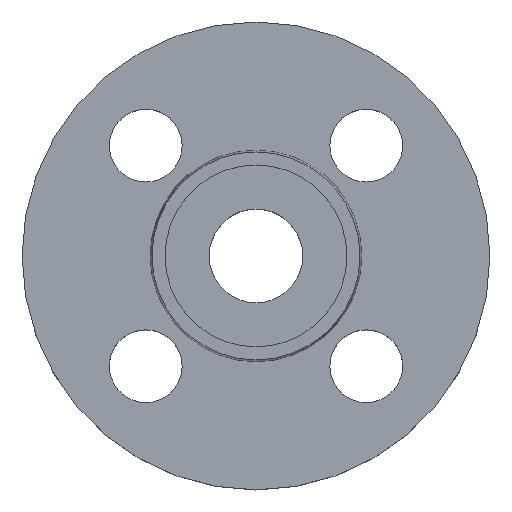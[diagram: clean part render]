
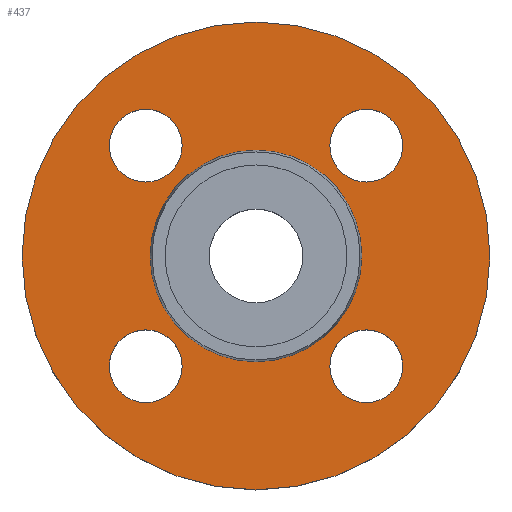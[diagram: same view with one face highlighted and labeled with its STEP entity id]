
A CAD part, top view. The second image highlights one B-rep face of the part: STEP entity #437.
In plain terms, the highlighted planar face has unit normal (0, 0, 1).
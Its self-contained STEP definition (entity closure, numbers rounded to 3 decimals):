
#24 = DIRECTION ( 'NONE',  ( 0., 0., -1. ) ) ;
#25 = DIRECTION ( 'NONE',  ( -1., 0., 0. ) ) ;
#31 = CARTESIAN_POINT ( 'NONE',  ( 0., 0., -2. ) ) ;
#40 = AXIS2_PLACEMENT_3D ( 'NONE', #396, #397, #399 ) ;
#42 = CIRCLE ( 'NONE', #40, 7. ) ;
#49 = CARTESIAN_POINT ( 'NONE',  ( 28.213, 21.213, -2. ) ) ;
#52 = CARTESIAN_POINT ( 'NONE',  ( 28.213, -21.213, -2. ) ) ;
#53 = CARTESIAN_POINT ( 'NONE',  ( 14.213, -21.213, -2. ) ) ;
#65 = CARTESIAN_POINT ( 'NONE',  ( -28.213, 21.213, -2. ) ) ;
#69 = CARTESIAN_POINT ( 'NONE',  ( -14.213, -21.213, -2. ) ) ;
#70 = DIRECTION ( 'NONE',  ( -1., 0., 0. ) ) ;
#71 = DIRECTION ( 'NONE',  ( 0., 0., -1. ) ) ;
#72 = CARTESIAN_POINT ( 'NONE',  ( 0., 0., -2. ) ) ;
#88 = CIRCLE ( 'NONE', #292, 45. ) ;
#98 = AXIS2_PLACEMENT_3D ( 'NONE', #280, #281, #282 ) ;
#102 = EDGE_CURVE ( 'NONE', #690, #498, #262, .T. ) ;
#103 = DIRECTION ( 'NONE',  ( -1., 0., 0. ) ) ;
#105 = DIRECTION ( 'NONE',  ( 0., 0., -1. ) ) ;
#107 = CARTESIAN_POINT ( 'NONE',  ( 0., 0., -2. ) ) ;
#108 = DIRECTION ( 'NONE',  ( 1., 0., 0. ) ) ;
#110 = DIRECTION ( 'NONE',  ( 0., 0., -1. ) ) ;
#111 = AXIS2_PLACEMENT_3D ( 'NONE', #466, #467, #474 ) ;
#113 = CARTESIAN_POINT ( 'NONE',  ( 21.213, 21.213, -2. ) ) ;
#116 = DIRECTION ( 'NONE',  ( 1., 0., 0. ) ) ;
#117 = DIRECTION ( 'NONE',  ( 0., 0., -1. ) ) ;
#118 = CARTESIAN_POINT ( 'NONE',  ( 21.213, -21.213, -2. ) ) ;
#124 = CIRCLE ( 'NONE', #703, 7. ) ;
#146 = CARTESIAN_POINT ( 'NONE',  ( -28.213, -21.213, -2. ) ) ;
#151 = CIRCLE ( 'NONE', #255, 45. ) ;
#156 = CARTESIAN_POINT ( 'NONE',  ( -14.213, 21.213, -2. ) ) ;
#157 = CARTESIAN_POINT ( 'NONE',  ( -45., 0., -2. ) ) ;
#186 = FACE_BOUND ( 'NONE', #519, .T. ) ;
#191 = FACE_BOUND ( 'NONE', #497, .T. ) ;
#205 = AXIS2_PLACEMENT_3D ( 'NONE', #113, #110, #108 ) ;
#220 = DIRECTION ( 'NONE',  ( 0., 0., 1. ) ) ;
#230 = EDGE_CURVE ( 'NONE', #673, #526, #270, .T. ) ;
#234 = AXIS2_PLACEMENT_3D ( 'NONE', #297, #298, #299 ) ;
#239 = CIRCLE ( 'NONE', #234, 7. ) ;
#240 = FACE_BOUND ( 'NONE', #515, .T. ) ;
#245 = CIRCLE ( 'NONE', #98, 7. ) ;
#247 = CARTESIAN_POINT ( 'NONE',  ( 20.353, 0., -2. ) ) ;
#248 = PLANE ( 'NONE',  #439 ) ;
#249 = DIRECTION ( 'NONE',  ( 1., 0., 0. ) ) ;
#250 = FACE_OUTER_BOUND ( 'NONE', #509, .T. ) ;
#251 = CARTESIAN_POINT ( 'NONE',  ( -20.353, 0., -2. ) ) ;
#255 = AXIS2_PLACEMENT_3D ( 'NONE', #414, #415, #423 ) ;
#256 = CARTESIAN_POINT ( 'NONE',  ( 45., 0., -2. ) ) ;
#262 = CIRCLE ( 'NONE', #478, 7. ) ;
#263 = EDGE_CURVE ( 'NONE', #684, #681, #245, .T. ) ;
#267 = CIRCLE ( 'NONE', #111, 7. ) ;
#270 = CIRCLE ( 'NONE', #364, 7. ) ;
#280 = CARTESIAN_POINT ( 'NONE',  ( 21.213, -21.213, -2. ) ) ;
#281 = DIRECTION ( 'NONE',  ( 0., 0., -1. ) ) ;
#282 = DIRECTION ( 'NONE',  ( 1., 0., 0. ) ) ;
#292 = AXIS2_PLACEMENT_3D ( 'NONE', #72, #71, #70 ) ;
#297 = CARTESIAN_POINT ( 'NONE',  ( -21.213, -21.213, -2. ) ) ;
#298 = DIRECTION ( 'NONE',  ( 0., 0., -1. ) ) ;
#299 = DIRECTION ( 'NONE',  ( 1., 0., 0. ) ) ;
#302 = EDGE_CURVE ( 'NONE', #666, #549, #239, .T. ) ;
#307 = CIRCLE ( 'NONE', #420, 20.353 ) ;
#311 = CIRCLE ( 'NONE', #205, 7. ) ;
#313 = CIRCLE ( 'NONE', #342, 20.353 ) ;
#342 = AXIS2_PLACEMENT_3D ( 'NONE', #31, #24, #25 ) ;
#355 = EDGE_CURVE ( 'NONE', #526, #673, #42, .T. ) ;
#364 = AXIS2_PLACEMENT_3D ( 'NONE', #795, #796, #797 ) ;
#378 = EDGE_CURVE ( 'NONE', #500, #508, #151, .T. ) ;
#396 = CARTESIAN_POINT ( 'NONE',  ( -21.213, 21.213, -2. ) ) ;
#397 = DIRECTION ( 'NONE',  ( 0., 0., -1. ) ) ;
#399 = DIRECTION ( 'NONE',  ( 1., 0., 0. ) ) ;
#414 = CARTESIAN_POINT ( 'NONE',  ( 0., 0., -2. ) ) ;
#415 = DIRECTION ( 'NONE',  ( 0., 0., -1. ) ) ;
#420 = AXIS2_PLACEMENT_3D ( 'NONE', #107, #105, #103 ) ;
#423 = DIRECTION ( 'NONE',  ( -1., 0., 0. ) ) ;
#437 = ADVANCED_FACE ( 'NONE', ( #186, #453, #191, #456, #240, #250 ), #248, .T. ) ;
#439 = AXIS2_PLACEMENT_3D ( 'NONE', #247, #220, #249 ) ;
#453 = FACE_BOUND ( 'NONE', #601, .T. ) ;
#456 = FACE_BOUND ( 'NONE', #564, .T. ) ;
#457 = CARTESIAN_POINT ( 'NONE',  ( 14.213, 21.213, -2. ) ) ;
#466 = CARTESIAN_POINT ( 'NONE',  ( -21.213, -21.213, -2. ) ) ;
#467 = DIRECTION ( 'NONE',  ( 0., 0., -1. ) ) ;
#474 = DIRECTION ( 'NONE',  ( 1., 0., 0. ) ) ;
#478 = AXIS2_PLACEMENT_3D ( 'NONE', #730, #731, #732 ) ;
#484 = CARTESIAN_POINT ( 'NONE',  ( 20.353, 0., -2. ) ) ;
#485 = EDGE_CURVE ( 'NONE', #549, #666, #267, .T. ) ;
#488 = VERTEX_POINT ( 'NONE', #484 ) ;
#497 = EDGE_LOOP ( 'NONE', ( #586, #587 ) ) ;
#498 = VERTEX_POINT ( 'NONE', #457 ) ;
#499 = VERTEX_POINT ( 'NONE', #251 ) ;
#500 = VERTEX_POINT ( 'NONE', #256 ) ;
#508 = VERTEX_POINT ( 'NONE', #157 ) ;
#509 = EDGE_LOOP ( 'NONE', ( #593, #595 ) ) ;
#515 = EDGE_LOOP ( 'NONE', ( #591, #592 ) ) ;
#519 = EDGE_LOOP ( 'NONE', ( #581, #583 ) ) ;
#526 = VERTEX_POINT ( 'NONE', #156 ) ;
#549 = VERTEX_POINT ( 'NONE', #146 ) ;
#564 = EDGE_LOOP ( 'NONE', ( #588, #589 ) ) ;
#581 = ORIENTED_EDGE ( 'NONE', *, *, #263, .T. ) ;
#583 = ORIENTED_EDGE ( 'NONE', *, *, #597, .T. ) ;
#584 = ORIENTED_EDGE ( 'NONE', *, *, #302, .T. ) ;
#585 = ORIENTED_EDGE ( 'NONE', *, *, #485, .T. ) ;
#586 = ORIENTED_EDGE ( 'NONE', *, *, #355, .T. ) ;
#587 = ORIENTED_EDGE ( 'NONE', *, *, #230, .T. ) ;
#588 = ORIENTED_EDGE ( 'NONE', *, *, #102, .T. ) ;
#589 = ORIENTED_EDGE ( 'NONE', *, *, #608, .T. ) ;
#591 = ORIENTED_EDGE ( 'NONE', *, *, #760, .T. ) ;
#592 = ORIENTED_EDGE ( 'NONE', *, *, #611, .T. ) ;
#593 = ORIENTED_EDGE ( 'NONE', *, *, #378, .F. ) ;
#595 = ORIENTED_EDGE ( 'NONE', *, *, #646, .F. ) ;
#597 = EDGE_CURVE ( 'NONE', #681, #684, #124, .T. ) ;
#601 = EDGE_LOOP ( 'NONE', ( #584, #585 ) ) ;
#608 = EDGE_CURVE ( 'NONE', #498, #690, #311, .T. ) ;
#611 = EDGE_CURVE ( 'NONE', #488, #499, #307, .T. ) ;
#646 = EDGE_CURVE ( 'NONE', #508, #500, #88, .T. ) ;
#666 = VERTEX_POINT ( 'NONE', #69 ) ;
#673 = VERTEX_POINT ( 'NONE', #65 ) ;
#681 = VERTEX_POINT ( 'NONE', #53 ) ;
#684 = VERTEX_POINT ( 'NONE', #52 ) ;
#690 = VERTEX_POINT ( 'NONE', #49 ) ;
#703 = AXIS2_PLACEMENT_3D ( 'NONE', #118, #117, #116 ) ;
#730 = CARTESIAN_POINT ( 'NONE',  ( 21.213, 21.213, -2. ) ) ;
#731 = DIRECTION ( 'NONE',  ( 0., 0., -1. ) ) ;
#732 = DIRECTION ( 'NONE',  ( 1., 0., 0. ) ) ;
#760 = EDGE_CURVE ( 'NONE', #499, #488, #313, .T. ) ;
#795 = CARTESIAN_POINT ( 'NONE',  ( -21.213, 21.213, -2. ) ) ;
#796 = DIRECTION ( 'NONE',  ( 0., 0., -1. ) ) ;
#797 = DIRECTION ( 'NONE',  ( 1., 0., 0. ) ) ;
